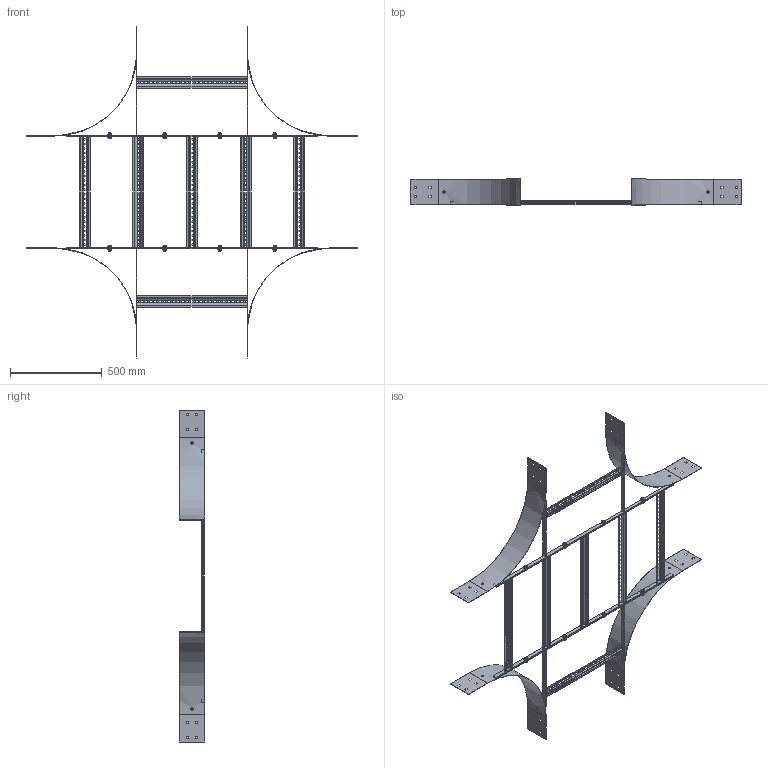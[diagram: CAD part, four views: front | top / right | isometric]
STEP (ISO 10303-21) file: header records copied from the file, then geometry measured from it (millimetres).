
FILE_DESCRIPTION (( 'STEP AP203' ), '1' );
FILE_NAME ('N20C C 6004.STEP', '2024-08-28T23:26:11', ( '' ), ( '' ), 'SwSTEP 2.0', 'SolidWorks 2023', '' );
FILE_SCHEMA (( 'CONFIG_CONTROL_DESIGN' ));
Length unit declared in the file: millimetre
Products named in the file (13): Fascia Kit M10x25_4th position; Ladder Tee 20x5 Flat Bar_1366; Ladder Tee 20x5 Flat Bar_378; Washers_M10 washer; N20C RADIUS PLATE_N1-450 IR; N20CC6004 horizontal_N20C C; Fascia bolt - M10x25_Fascia bolt; N20CC6004 vertical with sides_N20C C; N20C C 6004; CNH M10 Collar Nut_CNH M10 collar nut HDG; Ladder Rung_Ladder Rung -  600mm
Assembly tree (27 placements, depth 3):
  N20C C 6004
    N20CC6004 vertical with sides_N20C C  x2
      Ladder Tee 20x5 Flat Bar_1366
      N20C RADIUS PLATE_N1-450 IR
      Ladder Rung_Ladder Rung -  600mm
      Ladder Tee 20x5 Flat Bar_378
    N20CC6004 horizontal_N20C C
      Ladder Rung_Ladder Rung -  600mm  x5
      Ladder Tee 20x5 Flat Bar_1366
      Ladder Tee 20x5 Flat Bar_1366
    Fascia Kit M10x25_4th position  x8
      Fascia bolt - M10x25_Fascia bolt
      Washers_M10 washer
      CNH M10 Collar Nut_CNH M10 collar nut HDG
Bounding box: 1800 x 140 x 1810 mm (x, y, z)
Volume: 2290796.8 mm3; surface area: 2104155.6 mm2
Topology: 43 solids, 43 shells, 2734 faces, 7312 edges, 4696 vertices
Faces by surface type: plane 2270, cylinder 160, cone 112, bspline 112, torus 64, sphere 16
Entity records: 17110 total; most frequent: CARTESIAN_POINT 4135, ORIENTED_EDGE 2370, DIRECTION 2167, EDGE_CURVE 1185, LINE 933, VECTOR 933, VERTEX_POINT 765, AXIS2_PLACEMENT_3D 617
